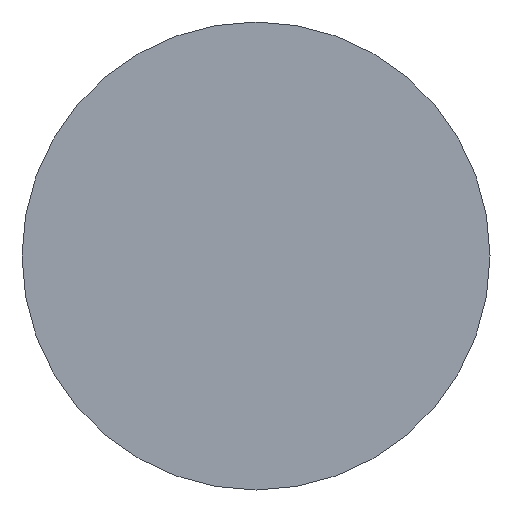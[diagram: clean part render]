
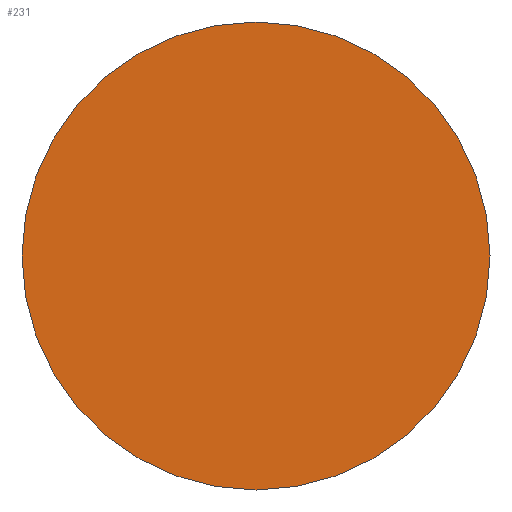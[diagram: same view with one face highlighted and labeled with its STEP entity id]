
A CAD part, front view. The second image highlights one B-rep face of the part: STEP entity #231.
In plain terms, the highlighted planar face has unit normal (0, -1, 0).
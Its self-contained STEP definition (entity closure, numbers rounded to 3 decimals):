
#12 = DIRECTION ( 'NONE',  ( 0., 1., 0. ) ) ;
#26 = CARTESIAN_POINT ( 'NONE',  ( 0., 0., 0. ) ) ;
#37 = CIRCLE ( 'NONE', #195, 17.5 ) ;
#40 = CARTESIAN_POINT ( 'NONE',  ( 0., 0., 0. ) ) ;
#51 = VERTEX_POINT ( 'NONE', #183 ) ;
#63 = DIRECTION ( 'NONE',  ( 0., 0., 1. ) ) ;
#66 = EDGE_CURVE ( 'NONE', #51, #218, #37, .T. ) ;
#111 = AXIS2_PLACEMENT_3D ( 'NONE', #40, #238, #63 ) ;
#127 = CARTESIAN_POINT ( 'NONE',  ( 0., 0., 0. ) ) ;
#143 = DIRECTION ( 'NONE',  ( 0., 1., 0. ) ) ;
#147 = PLANE ( 'NONE',  #156 ) ;
#156 = AXIS2_PLACEMENT_3D ( 'NONE', #127, #12, #194 ) ;
#158 = DIRECTION ( 'NONE',  ( 0., 0., 1. ) ) ;
#166 = CARTESIAN_POINT ( 'NONE',  ( 0., 0., -17.5 ) ) ;
#167 = EDGE_CURVE ( 'NONE', #218, #51, #236, .T. ) ;
#183 = CARTESIAN_POINT ( 'NONE',  ( 0., 0., 17.5 ) ) ;
#192 = FACE_OUTER_BOUND ( 'NONE', #257, .T. ) ;
#194 = DIRECTION ( 'NONE',  ( 0., 0., 1. ) ) ;
#195 = AXIS2_PLACEMENT_3D ( 'NONE', #26, #143, #158 ) ;
#212 = ORIENTED_EDGE ( 'NONE', *, *, #66, .F. ) ;
#218 = VERTEX_POINT ( 'NONE', #166 ) ;
#231 = ADVANCED_FACE ( 'NONE', ( #192 ), #147, .F. ) ;
#233 = ORIENTED_EDGE ( 'NONE', *, *, #167, .F. ) ;
#236 = CIRCLE ( 'NONE', #111, 17.5 ) ;
#238 = DIRECTION ( 'NONE',  ( 0., 1., 0. ) ) ;
#257 = EDGE_LOOP ( 'NONE', ( #233, #212 ) ) ;
